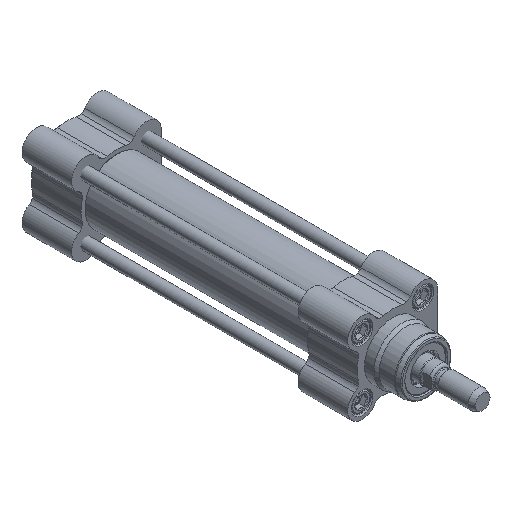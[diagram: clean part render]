
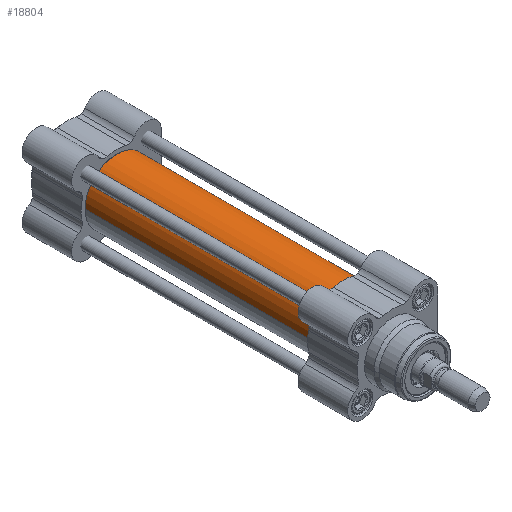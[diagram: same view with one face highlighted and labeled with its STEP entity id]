
A CAD part, isometric view. The second image highlights one B-rep face of the part: STEP entity #18804.
In plain terms, the highlighted cylindrical face has radius 17 mm (diameter 34 mm), a partial arc.
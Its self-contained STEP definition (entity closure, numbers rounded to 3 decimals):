
#395 = ORIENTED_EDGE ( 'NONE', *, *, #1418, .F. ) ;
#689 = DIRECTION ( 'NONE',  ( 1., 0., 0. ) ) ;
#846 = ORIENTED_EDGE ( 'NONE', *, *, #11455, .F. ) ;
#1200 = CARTESIAN_POINT ( 'NONE',  ( 17., 0., 0. ) ) ;
#1418 = EDGE_CURVE ( 'NONE', #21116, #18921, #6897, .T. ) ;
#2043 = DIRECTION ( 'NONE',  ( 1., 0., 0. ) ) ;
#2395 = CARTESIAN_POINT ( 'NONE',  ( 17., 60.3, 0. ) ) ;
#2665 = FACE_OUTER_BOUND ( 'NONE', #25512, .T. ) ;
#2692 = ORIENTED_EDGE ( 'NONE', *, *, #8708, .T. ) ;
#2863 = CARTESIAN_POINT ( 'NONE',  ( -17., 0., 0. ) ) ;
#3913 = AXIS2_PLACEMENT_3D ( 'NONE', #25068, #22980, #14662 ) ;
#6157 = AXIS2_PLACEMENT_3D ( 'NONE', #11606, #17365, #2043 ) ;
#6897 = LINE ( 'NONE', #2863, #20420 ) ;
#8708 = EDGE_CURVE ( 'NONE', #10315, #11923, #8777, .T. ) ;
#8777 = LINE ( 'NONE', #1200, #18198 ) ;
#10315 = VERTEX_POINT ( 'NONE', #23436 ) ;
#10739 = DIRECTION ( 'NONE',  ( 0., 1., 0. ) ) ;
#11455 = EDGE_CURVE ( 'NONE', #10315, #21116, #25336, .T. ) ;
#11606 = CARTESIAN_POINT ( 'NONE',  ( 0., -60.3, 0. ) ) ;
#11923 = VERTEX_POINT ( 'NONE', #2395 ) ;
#14662 = DIRECTION ( 'NONE',  ( 1., 0., 0. ) ) ;
#14689 = DIRECTION ( 'NONE',  ( 0., 1., 0. ) ) ;
#15131 = AXIS2_PLACEMENT_3D ( 'NONE', #22760, #14689, #689 ) ;
#16089 = ORIENTED_EDGE ( 'NONE', *, *, #20028, .F. ) ;
#17365 = DIRECTION ( 'NONE',  ( 0., -1., 0. ) ) ;
#18198 = VECTOR ( 'NONE', #10739, 1000. ) ;
#18802 = DIRECTION ( 'NONE',  ( 0., 1., 0. ) ) ;
#18804 = ADVANCED_FACE ( 'NONE', ( #2665 ), #18854, .T. ) ;
#18854 = CYLINDRICAL_SURFACE ( 'NONE', #15131, 17. ) ;
#18921 = VERTEX_POINT ( 'NONE', #23669 ) ;
#20028 = EDGE_CURVE ( 'NONE', #18921, #11923, #20180, .T. ) ;
#20180 = CIRCLE ( 'NONE', #3913, 17. ) ;
#20420 = VECTOR ( 'NONE', #18802, 1000. ) ;
#21116 = VERTEX_POINT ( 'NONE', #21559 ) ;
#21559 = CARTESIAN_POINT ( 'NONE',  ( -17., -60.3, 0. ) ) ;
#22760 = CARTESIAN_POINT ( 'NONE',  ( 0., 0., 0. ) ) ;
#22980 = DIRECTION ( 'NONE',  ( 0., 1., 0. ) ) ;
#23436 = CARTESIAN_POINT ( 'NONE',  ( 17., -60.3, 0. ) ) ;
#23669 = CARTESIAN_POINT ( 'NONE',  ( -17., 60.3, 0. ) ) ;
#25068 = CARTESIAN_POINT ( 'NONE',  ( 0., 60.3, 0. ) ) ;
#25336 = CIRCLE ( 'NONE', #6157, 17. ) ;
#25512 = EDGE_LOOP ( 'NONE', ( #395, #846, #2692, #16089 ) ) ;
